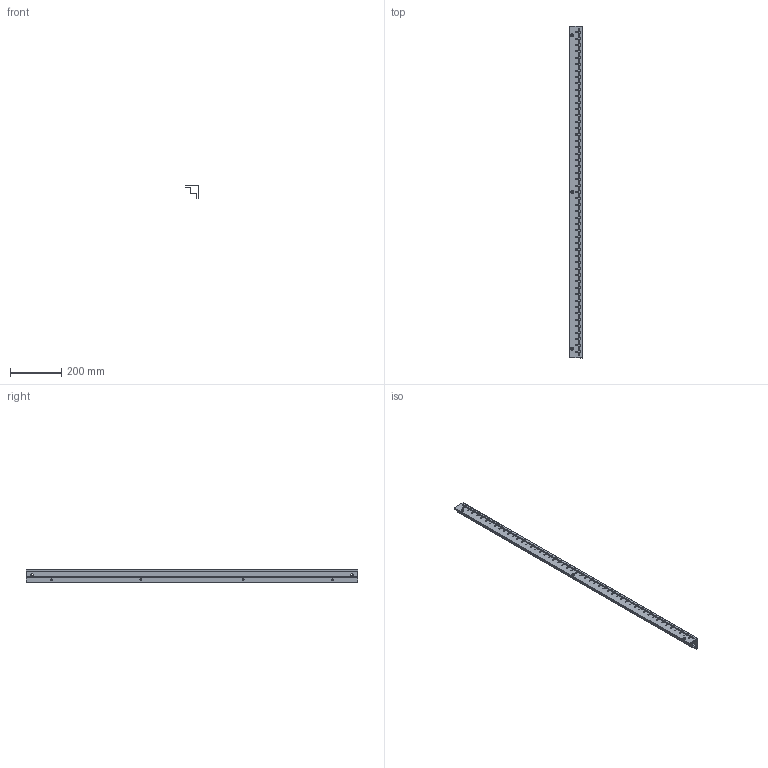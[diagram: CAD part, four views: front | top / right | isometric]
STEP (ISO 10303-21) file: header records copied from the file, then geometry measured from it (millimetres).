
FILE_DESCRIPTION(('Open CASCADE Model'),'2;1');
FILE_NAME('Open CASCADE Shape Model','2025-01-27T17:01:11',('Author'),( 'Open CASCADE'),'Open CASCADE STEP processor 7.8','Open CASCADE 7.8' ,'Unknown');
FILE_SCHEMA(('AUTOMOTIVE_DESIGN { 1 0 10303 214 1 1 1 1 }'));
Length unit declared in the file: millimetre
Products named in the file (2): Compound1; Solid1
Assembly tree (1 placements, depth 2):
  Compound1
    Solid1
Bounding box: 49.7 x 1299 x 49.7 mm (x, y, z)
Volume: 315092.7 mm3; surface area: 481569.6 mm2
Topology: 1 solids, 1 shells, 2059 faces, 6097 edges, 4065 vertices
Faces by surface type: cylinder 1244, plane 815
Full cylindrical faces by diameter (mm): 4.25 x206, 7 x7, 10 x4, 11 x7
Entity records: 71159 total; most frequent: DIRECTION 12707, CARTESIAN_POINT 12223, ORIENTED_EDGE 12194, EDGE_CURVE 6097, AXIS2_PLACEMENT_3D 4549, VERTEX_POINT 4065, LINE 3609, VECTOR 3609
